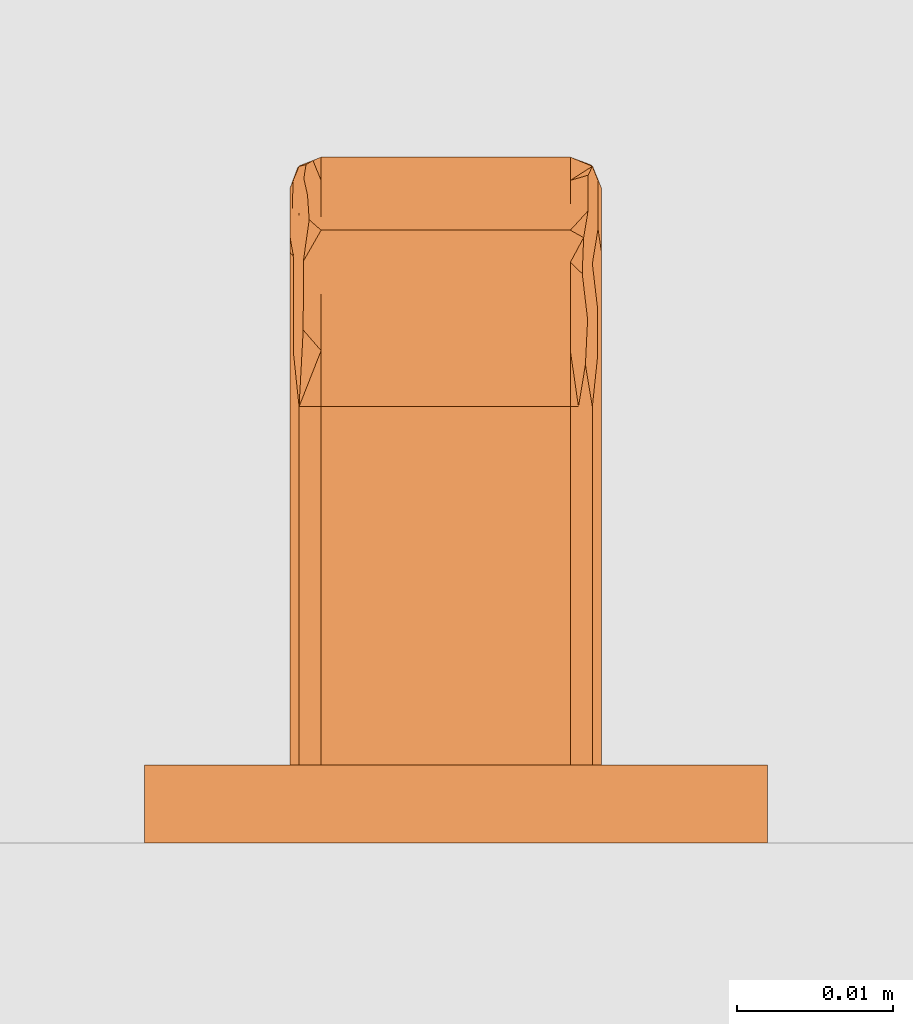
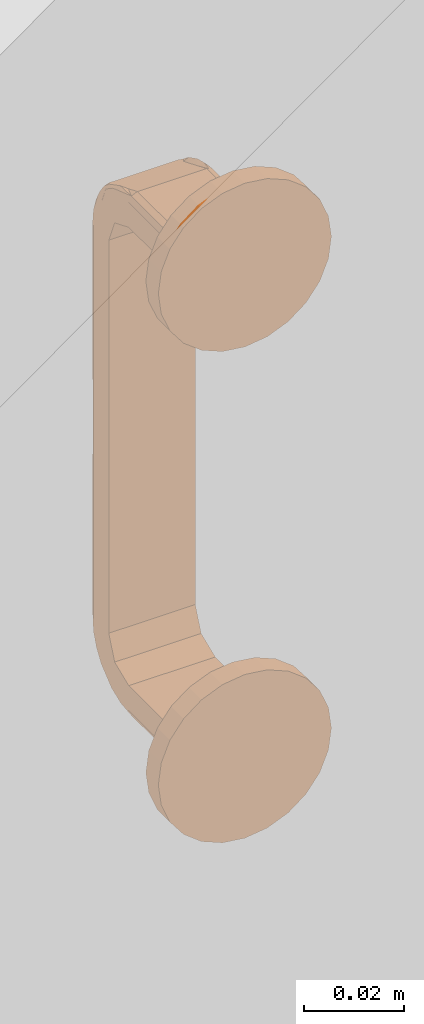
# One storey, part 48 of 67: 1 proxy.
"""IFC4 building model written with IfcOpenShell, lengths in millimetres."""

from ifc_helpers import new_model, entity, si_unit, converted_unit, direction, frame, origin, place, context, subcontext, project, spatial, polygons, source, transform, mapped, material, type_object, type_shapes, element, save


model = new_model("IFC4")

# Units and contexts
model_context = context("Model", 3, precision=0.01, world=origin(), true_north=direction((0.0, 1.0)))
body_context = subcontext(model_context, "Body", "Model", "MODEL_VIEW")
ifc_project = project(units=[si_unit("LENGTHUNIT", "METRE", prefix="MILLI"), si_unit("AREAUNIT", "SQUARE_METRE"), si_unit("VOLUMEUNIT", "CUBIC_METRE"), converted_unit("PLANEANGLEUNIT", "DEGREE", entity("IfcPlaneAngleMeasure", 0.017453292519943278), si_unit("PLANEANGLEUNIT", "RADIAN"), dimensions=[0, 0, 0, 0, 0, 0, 0])], contexts=[model_context])

# Site, building, storey, space
site_placement = place(None, origin())
site = spatial("IfcSite", under=ifc_project, at=site_placement, Name="Tomtens navn", CompositionType="ELEMENT")
building_placement = place(site_placement, origin())
building = spatial("IfcBuilding", under=site, at=building_placement, Name="Byggets navn", CompositionType="ELEMENT")
storey_placement = place(building_placement, origin())
storey = spatial("IfcBuildingStorey", under=building, at=storey_placement, Name="Level 01", CompositionType="ELEMENT", Elevation=2.1993652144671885e-25)
space_placement = place(storey_placement, origin())
space = spatial("IfcSpace", under=storey, at=space_placement, Name="102", CompositionType="ELEMENT", PredefinedType="NOTDEFINED")

# Proxy
ifc_material = material(Name="Handtag, vitt", Category="Unassigned")
building_element_proxy_type = type_object("IfcBuildingElementProxyType", Name="Handtag skåp1:Handtag skåp", PredefinedType="NOTDEFINED", material=ifc_material)
shared_shape = source(origin(), body_context, "Body", "Tessellation", [
    polygons([(8.670220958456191, -4.999999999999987, 4.021099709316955), (10.084434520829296, -4.9999999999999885, 3.435313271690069), (10.67022095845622, -4.999999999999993, 2.021099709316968), (10.67022095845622, -5.0000000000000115, -4.0210997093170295), (-9.32977904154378, -5.0000000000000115, -4.0210997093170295), (-9.32977904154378, -4.999999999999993, 2.021099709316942), (-8.743992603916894, -4.9999999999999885, 3.435313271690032), (-7.32977904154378, -4.999999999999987, 4.021099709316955), (8.670220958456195, -28.00000000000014, 4.0210997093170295), (10.084434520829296, -28.000000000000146, 3.435313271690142), (10.67022095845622, -28.00000000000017, 2.021099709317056), (8.670220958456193, -15.654960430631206, 4.02109970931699), (10.67022095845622, -17.34503987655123, 2.021099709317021), (10.08659387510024, -16.21238630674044, 3.433150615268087), (10.67022095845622, -37.914414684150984, -2.085585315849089), (10.67022095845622, -42.02109970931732, -11.999999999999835), (10.67022095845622, -42.02109970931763, -107.99999999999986), (10.67022095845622, -37.914414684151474, -117.91441468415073), (10.67022095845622, -28.00000000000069, -122.02109970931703), (10.67022095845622, -4.999999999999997, -122.02109970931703), (10.67022095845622, -4.999999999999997, -115.97890029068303), (10.67022095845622, -28.000000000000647, -115.97890029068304), (10.67022095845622, -33.641934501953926, -113.64193450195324), (10.67022095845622, -35.978900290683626, -107.99999999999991), (10.67022095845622, -35.978900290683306, -11.999999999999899), (10.67022095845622, -33.64193450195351, -6.358065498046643), (10.67022095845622, -28.000000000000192, -4.021099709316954), (-9.32977904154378, -28.000000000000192, -4.021099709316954), (-9.32977904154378, -33.64193450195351, -6.358065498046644), (-9.32977904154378, -35.97890029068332, -11.999999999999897), (-9.32977904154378, -35.97890029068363, -107.99999999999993), (-9.32977904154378, -33.641934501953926, -113.64193450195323), (-9.32977904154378, -28.000000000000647, -115.978900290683), (-9.32977904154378, -4.999999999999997, -115.978900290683), (-9.32977904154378, -4.999999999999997, -122.02109970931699), (-9.32977904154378, -28.00000000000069, -122.02109970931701), (-9.32977904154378, -37.91441468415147, -117.91441468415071), (-9.32977904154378, -42.0210997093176, -107.9999999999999), (-9.32977904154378, -42.02109970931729, -11.99999999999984), (-9.32977904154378, -37.91441468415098, -2.085585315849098), (-9.32977904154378, -28.000000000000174, 2.0210997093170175), (-8.743992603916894, -28.000000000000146, 3.435313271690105), (-7.329779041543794, -28.000000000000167, 4.0210997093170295), (-9.32977904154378, -15.654960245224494, 2.0210997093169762), (-7.3297790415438, -17.3450402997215, 4.021099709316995), (-8.741829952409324, -16.212386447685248, 3.4374726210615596), (8.670220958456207, -39.328628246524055, -0.6713717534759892), (8.670220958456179, -44.021099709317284, -11.999999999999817), (10.084434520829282, -43.43531327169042, -11.999999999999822), (10.67022095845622, -31.601265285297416, 0.5294067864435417), (8.670220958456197, -41.037713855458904, -4.797469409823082), (10.084434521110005, -40.40873190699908, -2.820007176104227), (8.670220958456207, -35.20253058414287, 1.0377138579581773), (9.809043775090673, -37.34144424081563, 0.5752165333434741), (9.818751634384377, -32.92350079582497, 2.8642465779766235), (10.67022095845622, -39.96775719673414, -7.042792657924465), (10.377327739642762, -28.000000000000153, 2.7282064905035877), (8.670220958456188, -42.529406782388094, -8.398734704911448), (9.779150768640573, -42.65191997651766, -6.400304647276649), (10.431420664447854, -34.75591670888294, 1.3575143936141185), (10.447049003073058, -37.641402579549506, -0.5884869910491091), (10.67022095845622, -34.7578399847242, -0.7780892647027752), (10.453824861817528, -31.5292743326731, 2.5026982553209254), (8.670220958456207, -31.601265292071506, 2.5294067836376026), (8.670220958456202, -40.18317105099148, -2.7344205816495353), (9.435587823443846, -40.00295364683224, -1.6197407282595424), (9.543801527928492, -41.59747716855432, -3.9137042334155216), (10.67022095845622, -38.941085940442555, -4.564188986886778), (10.502246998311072, -40.95405539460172, -4.794062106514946), (10.477567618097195, -42.45420227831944, -8.476170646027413), (9.193272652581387, -43.80444460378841, -11.999999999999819), (9.638611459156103, -43.53877057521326, -9.303396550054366), (10.67022095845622, -40.99442845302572, -9.521396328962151), (-7.329779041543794, -44.021099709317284, -11.999999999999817), (-7.329779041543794, -39.328628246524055, -0.6713717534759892), (-8.743992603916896, -43.43531327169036, -11.999999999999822), (-7.329779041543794, -35.20253057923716, 1.0377138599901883), (-8.743992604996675, -37.179992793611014, 0.40873192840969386), (-9.32977904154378, -40.52940677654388, -8.39873469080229), (-7.329779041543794, -41.03771385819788, -4.7974694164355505), (-8.468601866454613, -40.57521654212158, -2.658555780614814), (-8.478309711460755, -42.86424658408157, -7.076499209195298), (-9.32977904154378, -32.95720734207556, -0.03224280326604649), (-9.036885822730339, -42.72820649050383, -11.999999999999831), (-7.329779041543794, -31.601265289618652, 2.529406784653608), (-8.43870885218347, -33.59969531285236, 2.6519199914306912), (-9.090978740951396, -41.35751443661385, -5.244083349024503), (-9.106607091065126, -39.41151304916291, -2.3585974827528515), (-9.32977904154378, -39.221910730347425, -5.242160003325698), (-9.11338295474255, -42.50269824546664, -8.470725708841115), (-7.329779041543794, -42.52940678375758, -8.398734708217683), (-7.329779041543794, -37.26557941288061, 0.18317105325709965), (-8.095145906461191, -36.54048464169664, 1.37463273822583), (-8.182791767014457, -38.855367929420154, -0.47819170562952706), (-9.32977904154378, -35.43581101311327, -1.0589140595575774), (-7.852830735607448, -28.00000000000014, 3.8044446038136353), (-8.29816953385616, -30.69660343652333, 3.5387705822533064), (-9.060718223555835, -31.048754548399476, 2.7104148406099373), (-9.074370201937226, -34.340507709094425, 1.5930015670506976), (-9.32977904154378, -30.47860367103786, 0.9944284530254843), (-7.32977904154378, -33.664314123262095, 1.6748639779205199), (8.670220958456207, -33.664314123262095, 1.6748639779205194), (8.670220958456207, -30.748770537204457, 2.882521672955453), (-7.32977904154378, -41.67486397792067, -6.335685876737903), (8.670220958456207, -41.67486397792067, -6.335685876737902), (8.670220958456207, -40.50174611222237, -3.5035288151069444), (-7.32977904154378, -36.496471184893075, 0.5017461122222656), (8.670220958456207, -36.496471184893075, 0.5017461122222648), (-7.32977904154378, -30.83215706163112, 2.847981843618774), (8.670220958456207, -42.882521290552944, -9.251228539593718), (-7.32977904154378, -42.84798184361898, -9.167842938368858), (-7.32977904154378, -40.501746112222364, -3.5035288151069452), (8.670220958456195, -44.0210997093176, -107.99999999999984), (10.084434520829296, -43.435313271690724, -107.99999999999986), (10.67022095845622, -42.02109970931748, -61.38015936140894), (8.670220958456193, -44.021099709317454, -59.99999999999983), (8.670220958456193, -44.02109970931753, -83.30991987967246), (10.67022095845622, -42.02109970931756, -84.69007929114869), (8.670220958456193, -44.021099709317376, -36.69008012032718), (10.67022095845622, -42.02109970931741, -36.69007929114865), (10.67022095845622, -42.02109970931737, -24.34503925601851), (8.670220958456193, -44.021099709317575, -95.65495940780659), (8.670220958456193, -44.02109970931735, -24.345040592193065), (10.67022095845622, -42.021099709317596, -95.65495996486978), (10.084434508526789, -43.43531328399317, -90.1725199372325), (10.67022095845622, -42.021099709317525, -73.03511932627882), (10.043884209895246, -43.4747328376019, -67.20763959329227), (10.084434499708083, -43.435313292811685, -30.517560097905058), (10.084434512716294, -43.435313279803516, -43.7229280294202), (10.67022095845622, -42.021099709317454, -49.035119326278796), (10.049878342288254, -43.469044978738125, -55.462843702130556), (8.670220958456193, -44.02109970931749, -71.65495993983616), (10.188152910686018, -43.32336027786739, -78.66752152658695), (8.670220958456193, -44.02109970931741, -48.345040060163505), (-8.743992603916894, -43.43531327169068, -107.99999999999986), (-7.329779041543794, -44.0210997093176, -107.99999999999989), (-7.3297790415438, -44.02109970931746, -61.38015933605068), (-9.32977904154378, -42.021099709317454, -59.999999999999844), (-9.32977904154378, -42.02109970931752, -83.30992008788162), (-7.329779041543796, -44.02109970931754, -84.69007966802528), (-9.32977904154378, -42.02109970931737, -36.6900794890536), (-7.329779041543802, -44.021099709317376, -36.69007998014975), (-7.329779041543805, -44.02109970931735, -24.345039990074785), (-9.32977904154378, -42.02109970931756, -95.65495983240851), (-9.32977904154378, -42.02109970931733, -24.34503974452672), (-7.329779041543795, -44.021099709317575, -95.6549600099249), (-8.743992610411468, -43.43531326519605, -90.17252002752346), (-7.329779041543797, -44.0210997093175, -73.03511950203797), (-8.783412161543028, -43.39476296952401, -67.20763991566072), (-8.743992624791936, -43.43531325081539, -30.51756039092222), (-8.743992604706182, -43.43531327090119, -43.72292838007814), (-7.3297790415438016, -44.02109970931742, -49.03511997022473), (-8.777724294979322, -43.40075710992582, -55.462844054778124), (-9.32977904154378, -42.02109970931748, -71.65496025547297), (-8.632039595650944, -43.53903167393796, -78.66752173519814), (-9.32977904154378, -42.021099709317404, -48.34503974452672), (8.670220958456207, -39.32862824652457, -119.32862824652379), (8.670220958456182, -28.000000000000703, -124.02109970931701), (10.08443452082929, -28.0000000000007, -123.43531327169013), (10.67022095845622, -40.52940678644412, -111.60126528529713), (8.670220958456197, -35.202530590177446, -121.03771385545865), (10.084434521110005, -37.17999282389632, -120.40873190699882), (8.670220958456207, -41.03771385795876, -115.20253058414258), (9.809043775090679, -40.57521653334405, -117.34144424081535), (9.818751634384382, -42.864246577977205, -112.9235007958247), (10.67022095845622, -32.95720734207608, -119.96775719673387), (10.377327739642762, -42.728206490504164, -107.99999999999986), (8.67022095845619, -31.601265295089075, -122.52940678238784), (9.779150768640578, -33.59969535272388, -122.6519199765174), (10.431420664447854, -41.3575143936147, -114.75591670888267), (10.447049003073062, -39.41151300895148, -117.64140257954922), (10.67022095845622, -39.2219107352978, -114.75783998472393), (10.453824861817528, -42.50269825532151, -111.52927433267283), (8.670220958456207, -42.52940678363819, -111.60126529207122), (8.670220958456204, -37.26557941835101, -120.18317105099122), (9.435587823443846, -38.38025927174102, -120.00295364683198), (9.543801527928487, -36.08629576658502, -121.59747716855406), (10.67022095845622, -35.435811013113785, -118.9410859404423), (10.502246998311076, -35.205937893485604, -120.95405539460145), (10.477567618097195, -31.52382935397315, -122.45420227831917), (9.193272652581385, -28.0000000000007, -123.80444460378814), (9.638611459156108, -30.69660344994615, -123.538770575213), (10.67022095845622, -30.47860367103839, -120.99442845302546), (-7.329779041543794, -28.000000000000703, -124.02109970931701), (-7.329779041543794, -39.32862824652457, -119.32862824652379), (-8.743992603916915, -28.0000000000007, -123.43531327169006), (-7.329779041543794, -41.03771385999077, -115.20253057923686), (-8.743992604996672, -40.40873192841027, -117.17999279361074), (-9.32977904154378, -31.60126530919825, -120.52940677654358), (-7.329779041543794, -35.20253058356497, -121.03771385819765), (-8.468601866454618, -37.341444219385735, -120.57521654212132), (-8.478309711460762, -32.92350079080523, -122.8642465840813), (-9.32977904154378, -39.967757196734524, -112.9572073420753), (-9.036885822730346, -28.000000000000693, -122.72820649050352), (-7.329779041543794, -42.529406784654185, -111.60126528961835), (-8.438708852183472, -42.65191999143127, -113.59969531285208), (-9.090978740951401, -34.75591665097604, -121.35751443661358), (-9.106607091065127, -37.64140251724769, -119.41151304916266), (-9.32977904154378, -34.75783999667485, -119.22191073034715), (-9.113382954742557, -31.529274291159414, -122.50269824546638), (-7.329779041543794, -31.601265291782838, -122.52940678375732), (-7.329779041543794, -40.18317105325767, -117.26557941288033), (-8.095145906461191, -41.37463273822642, -116.54048464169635), (-8.182791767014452, -39.521808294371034, -118.8553679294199), (-9.32977904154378, -38.941085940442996, -115.435811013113), (-7.852830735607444, -43.804444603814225, -107.99999999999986), (-8.298169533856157, -43.53877058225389, -110.69660343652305), (-9.060718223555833, -42.710414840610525, -111.04875454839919), (-9.074370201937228, -41.59300156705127, -114.34050770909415), (-9.32977904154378, -40.99442845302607, -110.47860367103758), (-7.32977904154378, -41.6748639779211, -113.66431412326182), (8.670220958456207, -41.6748639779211, -113.66431412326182), (8.670220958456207, -42.88252167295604, -110.74877053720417), (-7.32977904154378, -33.66431412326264, -121.67486397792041), (8.670220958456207, -33.66431412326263, -121.67486397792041), (8.670220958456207, -36.4964711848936, -120.50174611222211), (-7.32977904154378, -40.50174611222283, -116.49647118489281), (8.670220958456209, -40.50174611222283, -116.49647118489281), (-7.32977904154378, -42.84798184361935, -110.83215706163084), (8.670220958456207, -30.748771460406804, -122.88252129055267), (-7.32977904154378, -30.832157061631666, -122.84798184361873), (-7.32977904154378, -36.49647118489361, -120.50174611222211), (8.670220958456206, -4.99999999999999, -124.02109970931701), (-7.329779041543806, -4.99999999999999, -124.021099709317), (-8.743992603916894, -4.99999999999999, -123.43531327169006), (10.084434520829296, -4.99999999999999, -123.43531327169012), (8.670220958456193, -17.345041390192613, -124.021099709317), (10.67022095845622, -15.654959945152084, -122.02109970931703), (10.086593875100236, -16.787613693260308, -123.43315061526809), (-9.32977904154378, -17.34504010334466, -122.02109970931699), (-7.3297790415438, -15.654959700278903, -124.021099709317), (-8.741829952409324, -16.787613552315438, -123.43747262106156)], [[[8, 1, 2, 3, 4, 5, 6, 7]], [[30, 25, 24, 31]], [[35, 34, 21, 20, 226, 223, 224, 225]], [[13, 10, 57, 11]], [[10, 13, 14]], [[14, 12, 9]], [[12, 2, 1]], [[14, 2, 12]], [[3, 14, 13]], [[3, 2, 14]], [[9, 10, 14]], [[4, 3, 13, 11, 50, 62, 15, 68, 56, 73, 16, 121, 120, 130, 115, 126, 118, 124, 17, 160, 172, 18, 178, 166, 183, 19, 228, 20, 21, 22, 23, 24, 25, 26, 27]], [[5, 4, 27, 28]], [[184, 231, 224, 223, 227, 158]], [[34, 35, 230, 36, 189, 199, 37, 205, 193, 210, 38, 144, 139, 154, 138, 156, 141, 145, 39, 79, 89, 40, 95, 83, 100, 41, 44, 6, 5, 28, 29, 30, 31, 32, 33]], [[45, 42, 96, 43]], [[42, 45, 46]], [[46, 44, 41]], [[44, 7, 6]], [[46, 7, 44]], [[8, 46, 45]], [[8, 7, 46]], [[41, 42, 46]], [[1, 8, 45, 43, 9, 12]], [[33, 22, 21, 34]], [[61, 62, 60]], [[69, 56, 68]], [[47, 65, 66]], [[53, 54, 55]], [[59, 51, 105, 58]], [[67, 65, 106, 51]], [[70, 56, 69]], [[63, 60, 50]], [[10, 64, 55]], [[52, 67, 59]], [[54, 53, 108, 47]], [[58, 71, 72]], [[60, 55, 54]], [[68, 61, 69]], [[67, 52, 66]], [[15, 61, 68]], [[63, 10, 55]], [[11, 57, 10, 63]], [[71, 58, 110, 48]], [[49, 16, 70]], [[61, 60, 54]], [[50, 11, 63]], [[52, 61, 54]], [[62, 61, 15]], [[62, 50, 60]], [[55, 60, 63]], [[10, 9, 103, 64]], [[55, 64, 102, 53]], [[52, 54, 66]], [[54, 47, 66]], [[65, 67, 66]], [[51, 59, 67]], [[61, 52, 69]], [[52, 59, 69]], [[70, 69, 59]], [[59, 72, 70]], [[70, 16, 73, 56]], [[72, 71, 49]], [[70, 72, 49]], [[58, 72, 59]], [[26, 29, 28, 27]], [[25, 30, 29, 26]], [[96, 85, 109, 43]], [[90, 87, 79]], [[86, 77, 101, 85]], [[98, 99, 86]], [[93, 92, 107, 77]], [[87, 82, 81]], [[81, 82, 80]], [[99, 95, 78]], [[88, 89, 87]], [[86, 99, 78]], [[78, 94, 93]], [[76, 91, 82]], [[81, 80, 112, 75]], [[92, 93, 94]], [[94, 78, 88]], [[40, 88, 95]], [[90, 76, 82]], [[39, 84, 76, 90]], [[98, 97, 42]], [[97, 98, 86]], [[88, 87, 81]], [[79, 39, 90]], [[88, 81, 94]], [[89, 88, 40]], [[89, 79, 87]], [[82, 87, 90]], [[76, 74, 111, 91]], [[82, 91, 104, 80]], [[77, 86, 93]], [[86, 78, 93]], [[81, 75, 94]], [[92, 94, 75]], [[95, 88, 78]], [[97, 96, 42]], [[85, 96, 97]], [[85, 97, 86]], [[42, 41, 98]], [[100, 83, 95, 99]], [[99, 98, 100]], [[98, 41, 100]], [[103, 9, 43, 109, 85, 101, 77, 107, 92, 75, 47, 108, 53, 102, 64]], [[105, 51, 106, 65, 47, 75, 112, 80, 104, 91, 111, 74, 48, 110, 58]], [[121, 16, 49, 128, 129, 130, 120]], [[118, 125, 114, 167, 17, 124]], [[126, 133, 118]], [[126, 115, 127]], [[123, 119, 134, 129, 128, 49, 71, 48]], [[125, 117, 122, 113, 114]], [[131, 130, 129]], [[130, 131, 115]], [[126, 127, 133]], [[127, 116, 132]], [[133, 117, 125]], [[131, 134, 116]], [[131, 116, 127]], [[115, 131, 127]], [[131, 129, 134]], [[133, 127, 132]], [[133, 132, 117]], [[118, 133, 125]], [[143, 74, 76, 150, 151, 152, 142]], [[140, 147, 135, 206, 136, 146]], [[148, 155, 140]], [[148, 137, 149]], [[145, 141, 156, 151, 150, 76, 84, 39]], [[147, 139, 144, 38, 135]], [[153, 152, 151]], [[152, 153, 137]], [[148, 149, 155]], [[149, 138, 154]], [[155, 139, 147]], [[153, 156, 138]], [[153, 138, 149]], [[137, 153, 149]], [[153, 151, 156]], [[155, 149, 154]], [[155, 154, 139]], [[140, 155, 147]], [[48, 74, 143, 142, 152, 137, 148, 140, 146, 136, 113, 122, 117, 132, 116, 134, 119, 123]], [[171, 172, 170]], [[179, 166, 178]], [[157, 176, 164]], [[163, 164, 165]], [[169, 161, 215, 168]], [[176, 157, 175]], [[180, 166, 179]], [[173, 170, 160]], [[114, 174, 165]], [[162, 177, 169]], [[164, 163, 218, 157]], [[168, 181, 182]], [[170, 165, 164]], [[178, 171, 179]], [[177, 162, 176]], [[18, 171, 178]], [[173, 114, 165]], [[17, 167, 114, 173]], [[181, 168, 220, 158]], [[159, 19, 180]], [[171, 170, 164]], [[160, 17, 173]], [[162, 171, 164]], [[172, 171, 18]], [[172, 160, 170]], [[165, 170, 173]], [[114, 113, 213, 174]], [[165, 174, 212, 163]], [[177, 175, 216, 161]], [[164, 176, 162]], [[175, 177, 176]], [[161, 169, 177]], [[171, 162, 179]], [[162, 169, 179]], [[180, 179, 169]], [[169, 182, 180]], [[180, 19, 183, 166]], [[182, 181, 159]], [[180, 182, 159]], [[168, 182, 169]], [[23, 32, 31, 24]], [[22, 33, 32, 23]], [[206, 195, 219, 136]], [[200, 197, 189]], [[196, 187, 211, 195]], [[208, 209, 196]], [[203, 202, 217, 187]], [[197, 192, 191]], [[191, 192, 190]], [[209, 205, 188]], [[198, 199, 197]], [[196, 209, 188]], [[188, 204, 203]], [[186, 201, 192]], [[191, 190, 222, 185]], [[202, 203, 204]], [[203, 196, 188]], [[37, 198, 205]], [[200, 186, 192]], [[36, 194, 186, 200]], [[208, 207, 135]], [[207, 208, 196]], [[198, 197, 191]], [[189, 36, 200]], [[198, 191, 204]], [[199, 198, 37]], [[199, 189, 197]], [[192, 197, 200]], [[186, 184, 221, 201]], [[192, 201, 214, 190]], [[196, 203, 187]], [[198, 204, 188]], [[191, 185, 204]], [[202, 204, 185]], [[205, 198, 188]], [[207, 206, 135]], [[195, 206, 207]], [[195, 207, 196]], [[135, 38, 208]], [[210, 193, 205, 209]], [[209, 208, 210]], [[208, 38, 210]], [[213, 113, 136, 219, 195, 211, 187, 217, 202, 185, 157, 218, 163, 212, 174]], [[215, 161, 216, 175, 157, 185, 222, 190, 214, 201, 221, 184, 158, 220, 168]], [[228, 226, 20]], [[226, 228, 229]], [[229, 227, 223]], [[227, 159, 181, 158]], [[229, 159, 227]], [[19, 229, 228]], [[19, 159, 229]], [[223, 226, 229]], [[231, 225, 224]], [[225, 231, 232]], [[232, 230, 35]], [[230, 186, 194, 36]], [[232, 186, 230]], [[184, 232, 231]], [[184, 186, 232]], [[35, 225, 232]]], closed=True),
    polygons([(-20.00000000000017, -4.999999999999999, 1.386238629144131e-14), (-19.318516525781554, -4.999999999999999, -5.176380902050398), (-17.320508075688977, -4.999999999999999, -9.999999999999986), (-14.14213562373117, -4.999999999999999, -14.142135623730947), (-10.000000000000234, -4.999999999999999, -17.320508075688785), (-5.176380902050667, -4.999999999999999, -19.318516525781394), (-2.580269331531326e-13, -4.999999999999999, -20.00000000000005), (5.176380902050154, -4.999999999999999, -19.31851652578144), (9.999999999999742, -4.999999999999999, -17.320508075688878), (14.142135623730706, -4.999999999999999, -14.142135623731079), (17.320508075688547, -4.999999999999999, -10.000000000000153), (19.318516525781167, -4.999999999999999, -5.176380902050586), (19.999999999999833, -4.999999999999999, -5.075939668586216e-14), (19.3185165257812, -4.999999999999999, 5.17638090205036), (17.32050807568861, -4.999999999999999, 9.999999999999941), (14.142135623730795, -4.999999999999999, 14.142135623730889), (9.99999999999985, -4.999999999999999, 17.32050807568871), (5.176380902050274, -4.999999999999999, 19.31851652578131), (-1.3958834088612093e-13, -4.999999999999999, 19.99999999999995), (-5.176380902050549, -4.999999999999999, 19.318516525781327), (-10.000000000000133, -4.999999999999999, 17.320508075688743), (-14.142135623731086, -4.999999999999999, 14.142135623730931), (-17.320508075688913, -4.999999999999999, 9.999999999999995), (-19.318516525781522, -4.999999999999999, 5.176380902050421), (-20.00000000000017, 0.0, 4.9806020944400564e-15), (-19.318516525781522, 0.0, 5.176380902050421), (-17.320508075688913, 0.0, 9.999999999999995), (-14.142135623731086, 0.0, 14.142135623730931), (-10.000000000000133, 0.0, 17.320508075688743), (-5.176380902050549, 0.0, 19.318516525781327), (-1.3958834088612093e-13, 0.0, 19.99999999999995), (5.176380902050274, 0.0, 19.31851652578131), (9.99999999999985, 0.0, 17.32050807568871), (14.142135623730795, 0.0, 14.142135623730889), (17.32050807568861, 0.0, 9.999999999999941), (19.3185165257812, 0.0, 5.17638090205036), (19.999999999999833, 0.0, -1.622393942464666e-13), (19.318516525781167, 0.0, -5.176380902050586), (17.320508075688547, 0.0, -10.000000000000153), (14.142135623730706, 0.0, -14.142135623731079), (9.999999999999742, 0.0, -17.320508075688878), (5.176380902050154, 0.0, -19.31851652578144), (-2.580269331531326e-13, 0.0, -20.00000000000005), (-5.176380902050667, 0.0, -19.318516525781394), (-10.000000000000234, 0.0, -17.320508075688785), (-14.14213562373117, 0.0, -14.142135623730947), (-17.320508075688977, 0.0, -9.999999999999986), (-19.318516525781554, 0.0, -5.176380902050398)], [[[8, 9, 10, 11, 12, 13, 14, 15, 16, 17, 18, 19, 20, 21, 22, 23, 24, 1, 2, 3, 4, 5, 6, 7]], [[31, 32, 33, 34, 35, 36, 37, 38, 39, 40, 41, 42, 43, 44, 45, 46, 47, 48, 25, 26, 27, 28, 29, 30]], [[48, 2, 1, 25]], [[47, 3, 2, 48]], [[5, 4, 46, 45]], [[47, 46, 4, 3]], [[6, 5, 45, 44]], [[7, 6, 44, 43]], [[42, 8, 7, 43]], [[41, 9, 8, 42]], [[11, 10, 40, 39]], [[41, 40, 10, 9]], [[12, 11, 39, 38]], [[13, 12, 38, 37]], [[36, 14, 13, 37]], [[35, 15, 14, 36]], [[17, 16, 34, 33]], [[35, 34, 16, 15]], [[18, 17, 33, 32]], [[19, 18, 32, 31]], [[30, 20, 19, 31]], [[29, 21, 20, 30]], [[23, 22, 28, 27]], [[29, 28, 22, 21]], [[24, 23, 27, 26]], [[1, 24, 26, 25]]], closed=True),
    polygons([(-20.000000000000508, -4.999999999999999, -120.0), (-19.31851652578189, -4.999999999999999, -125.17638090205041), (-17.32050807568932, -4.999999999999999, -130.0), (-14.142135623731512, -4.999999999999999, -134.14213562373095), (-10.000000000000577, -4.999999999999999, -137.3205080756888), (-5.176380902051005, -4.999999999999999, -139.3185165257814), (-6.006528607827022e-13, -4.999999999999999, -140.00000000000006), (5.176380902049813, -4.999999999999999, -139.31851652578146), (9.999999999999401, -4.999999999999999, -137.3205080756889), (14.142135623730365, -4.999999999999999, -134.1421356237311), (17.320508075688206, -4.999999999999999, -130.00000000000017), (19.318516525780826, -4.999999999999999, -125.1763809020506), (19.999999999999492, -4.999999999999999, -120.00000000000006), (19.31851652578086, -4.999999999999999, -114.82361909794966), (17.32050807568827, -4.999999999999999, -110.00000000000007), (14.142135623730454, -4.999999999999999, -105.85786437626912), (9.99999999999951, -4.999999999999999, -102.6794919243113), (5.176380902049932, -4.999999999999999, -100.6814834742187), (-4.779843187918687e-13, -4.999999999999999, -100.00000000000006), (-5.176380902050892, -4.999999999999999, -100.68148347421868), (-10.000000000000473, -4.999999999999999, -102.67949192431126), (-14.142135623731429, -4.999999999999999, -105.85786437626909), (-17.320508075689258, -4.999999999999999, -110.00000000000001), (-19.31851652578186, -4.999999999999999, -114.82361909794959), (-20.000000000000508, 0.0, -120.00000000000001), (-19.31851652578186, 0.0, -114.82361909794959), (-17.320508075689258, 0.0, -110.00000000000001), (-14.142135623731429, 0.0, -105.85786437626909), (-10.000000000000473, 0.0, -102.67949192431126), (-5.176380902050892, 0.0, -100.68148347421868), (-4.779843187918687e-13, 0.0, -100.00000000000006), (5.176380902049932, 0.0, -100.6814834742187), (9.99999999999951, 0.0, -102.6794919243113), (14.142135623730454, 0.0, -105.85786437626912), (17.32050807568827, 0.0, -110.00000000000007), (19.31851652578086, 0.0, -114.82361909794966), (19.999999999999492, 0.0, -120.00000000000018), (19.318516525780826, 0.0, -125.1763809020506), (17.320508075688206, 0.0, -130.00000000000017), (14.142135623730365, 0.0, -134.1421356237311), (9.999999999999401, 0.0, -137.3205080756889), (5.176380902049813, 0.0, -139.31851652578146), (-6.006528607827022e-13, 0.0, -140.00000000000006), (-5.176380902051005, 0.0, -139.3185165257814), (-10.000000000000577, 0.0, -137.3205080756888), (-14.142135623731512, 0.0, -134.14213562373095), (-17.32050807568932, 0.0, -130.0), (-19.31851652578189, 0.0, -125.17638090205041)], [[[7, 8, 9, 10, 11, 12, 13, 14, 15, 16, 17, 18, 19, 20, 21, 22, 23, 24, 1, 2, 3, 4, 5, 6]], [[31, 32, 33, 34, 35, 36, 37, 38, 39, 40, 41, 42, 43, 44, 45, 46, 47, 48, 25, 26, 27, 28, 29, 30]], [[48, 2, 1, 25]], [[47, 3, 2, 48]], [[5, 4, 46, 45]], [[47, 46, 4, 3]], [[6, 5, 45, 44]], [[7, 6, 44, 43]], [[42, 8, 7, 43]], [[41, 9, 8, 42]], [[11, 10, 40, 39]], [[41, 40, 10, 9]], [[12, 11, 39, 38]], [[13, 12, 38, 37]], [[36, 14, 13, 37]], [[35, 15, 14, 36]], [[17, 16, 34, 33]], [[35, 34, 16, 15]], [[18, 17, 33, 32]], [[19, 18, 32, 31]], [[30, 20, 19, 31]], [[29, 21, 20, 30]], [[23, 22, 28, 27]], [[29, 28, 22, 21]], [[24, 23, 27, 26]], [[1, 24, 26, 25]]], closed=True),
])
type_shapes(building_element_proxy_type, [shared_shape])
proxy_placement = place(space_placement, frame((67451.85352810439, 18543.466456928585, 1120.0), z_axis=(0.0, 0.0, 1.0), x_axis=(-1.0, 0.0, 0.0)))
element("IfcBuildingElementProxy", 1, at=proxy_placement, inside=space, type_object=building_element_proxy_type, material=ifc_material, Name="Handtag skåp1:Handtag skåp", PredefinedType="NOTDEFINED", context=body_context, shape_type="MappedRepresentation", body=[
    mapped(shared_shape, transform((0.0, 0.0, 0.0), scale=1.0)),
])

save(model, "model.ifc")
